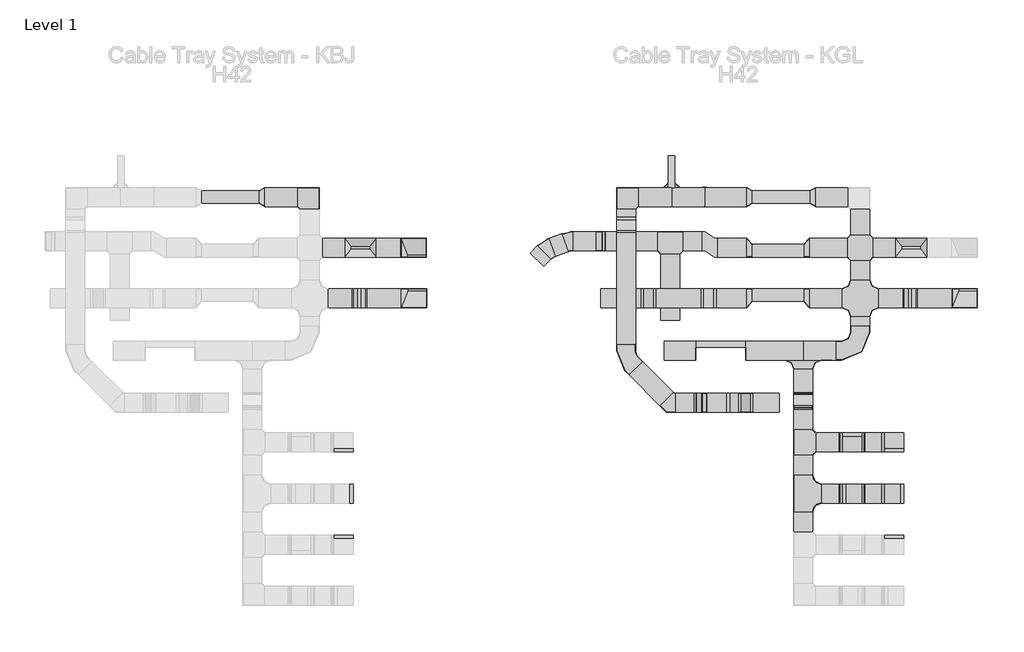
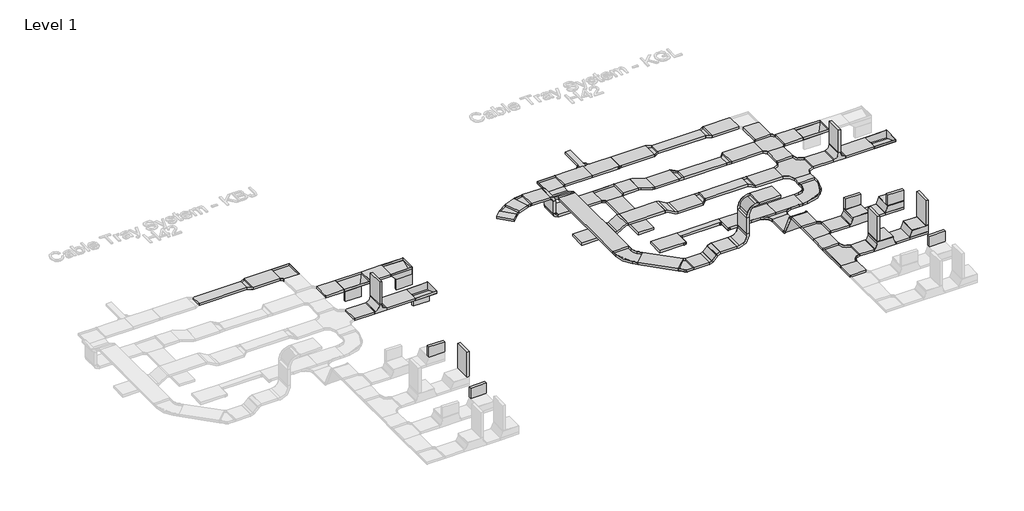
# One storey, part 7 of 32: 67 cable carrier segments, 48 cable carrier fittings.
"""IFC4 building model written with IfcOpenShell, lengths in millimetres."""

from ifc_helpers import new_model, si_unit, frame, origin, place, context, project, spatial, polyline, outline, extrude, transform, mapped, element, save
from components import cable_carrier_fitting_2f03b0e3, cable_carrier_fitting_e5c8e40d, cable_carrier_fitting_efa56db2, cable_carrier_fitting_2b67af39, cable_carrier_fitting_400b97e6, cable_carrier_fitting_736d034b, cable_carrier_fitting_94ef316f, cable_carrier_fitting_d4aa8912, cable_carrier_fitting_717dd42d, cable_carrier_fitting_b6ebce7b, cable_carrier_fitting_70c157f5, cable_carrier_fitting_f138ef00, cable_carrier_fitting_e93d4d17, cable_carrier_fitting_1724e2f5, cable_carrier_fitting_f62230c1, cable_carrier_fitting_ae8e9708, cable_carrier_fitting_2d1b2b1b, cable_carrier_fitting_6d558282, cable_carrier_fitting_b296faec, cable_carrier_fitting_47b1af77, cable_carrier_fitting_55953e98, cable_carrier_fitting_c1d9b0e5, cable_carrier_fitting_19ef2403, cable_carrier_fitting_0fee3a18, cable_carrier_fitting_93b13c26, cable_carrier_fitting_9011e538, cable_carrier_fitting_5d3ac796, cable_carrier_fitting_b8cc1d00, cable_carrier_fitting_0e05e12f, cable_carrier_fitting_3ff81d9b, cable_carrier_fitting_881c8fdb, cable_carrier_fitting_302010ec, rkj200_h42_828cf9d7, rkj200_h42_37d9c611

model = new_model("IFC4")

# Units and contexts
model_context = context("Model", 3, world=origin())
ifc_project = project(units=[si_unit("LENGTHUNIT", "METRE", prefix="MILLI")], contexts=[model_context])

# Site, building, storey
site = spatial("IfcSite", under=ifc_project)
building = spatial("IfcBuilding", under=site)
storey = spatial("IfcBuildingStorey", under=building, Name="Level 1", Elevation=0.0)

# Cable carrier fittings
placement = place(None, origin())
cable_carrier_fitting_shape = cable_carrier_fitting_2f03b0e3(model_context)
element("IfcCableCarrierFitting", 1, ObjectType="BAKS_Vertical tee symetrical : TRSNJ_H42", at=placement, inside=storey, context=model_context, shape_type="MappedRepresentation", body=[
    mapped(cable_carrier_fitting_shape, transform((-6858.1670538, 67780.8714214, 0.0), x_axis=(1.0, 0.0, 0.0), y_axis=(0.0, -1.0, 0.0), z_axis=(0.0, 0.0, -1.0))),
])
element("IfcCableCarrierFitting", 2, ObjectType="BAKS_Vertical tee symetrical : TRSNJ_H42", at=placement, inside=storey, context=model_context, shape_type="MappedRepresentation", body=[
    mapped(cable_carrier_fitting_shape, transform((-15558.1670538, 67780.8714214, 0.0), x_axis=(1.0, 0.0, 0.0), y_axis=(0.0, -1.0, 0.0), z_axis=(0.0, 0.0, -1.0))),
])
cable_carrier_fitting_2_shape = cable_carrier_fitting_e5c8e40d(model_context)
element("IfcCableCarrierFitting", 3, ObjectType="BAKS_SUB_Corner connector : LRJ_H42", at=placement, inside=storey, context=model_context, shape_type="MappedRepresentation", body=[
    mapped(cable_carrier_fitting_2_shape, transform((-10675.1670538, 69530.8714214, -21.0), x_axis=(-1.0, 0.0, 0.0), y_axis=(0.0, -1.0, 0.0), z_axis=(0.0, 0.0, 1.0))),
])
element("IfcCableCarrierFitting", 4, ObjectType="BAKS_SUB_Corner connector : LRJ_H42", at=placement, inside=storey, context=model_context, shape_type="MappedRepresentation", body=[
    mapped(cable_carrier_fitting_2_shape, transform((-10575.1670538, 69530.8714214, -21.0), x_axis=(0.0, 1.0, 0.0), y_axis=(-1.0, 0.0, 0.0), z_axis=(0.0, 0.0, 1.0))),
])
cable_carrier_fitting_3_shape = cable_carrier_fitting_efa56db2(model_context)
element("IfcCableCarrierFitting", 5, ObjectType="BAKS_Horizontal bypass : OPZNJ_H42", at=placement, inside=storey, context=model_context, shape_type="MappedRepresentation", body=[
    mapped(cable_carrier_fitting_3_shape, transform((-10022.1670538, 68580.8714214, 0.0), x_axis=(-1.0, 0.0, 0.0), y_axis=(0.0, 1.0, 0.0), z_axis=(0.0, 0.0, -1.0))),
])
cable_carrier_fitting_4_shape = cable_carrier_fitting_2b67af39(model_context)
element("IfcCableCarrierFitting", 6, ObjectType="BAKS_Vertical bypass : OPNNJ_H42", at=placement, inside=storey, context=model_context, shape_type="MappedRepresentation", body=[
    mapped(cable_carrier_fitting_4_shape, transform((-10986.6670538, 67780.8714214, 100.0), x_axis=(-1.0, 0.0, 0.0), y_axis=(0.0, -1.0, 0.0), z_axis=(0.0, 0.0, 1.0))),
])
cable_carrier_fitting_5_shape = cable_carrier_fitting_400b97e6(model_context)
element("IfcCableCarrierFitting", 7, ObjectType="BAKS_Vertical elbow left : KRLBJ_H42", at=placement, inside=storey, context=model_context, shape_type="MappedRepresentation", body=[
    mapped(cable_carrier_fitting_5_shape, transform((-14908.1670538, 68580.8714214, 0.0), x_axis=(1.0, 0.0, 0.0), y_axis=(0.0, 1.0, 0.0), z_axis=(0.0, 0.0, 1.0))),
])
cable_carrier_fitting_6_shape = cable_carrier_fitting_736d034b(model_context)
element("IfcCableCarrierFitting", 8, ObjectType="BAKS_Vertical tee lengthwise : TRBJ_H42", at=placement, inside=storey, context=model_context, shape_type="MappedRepresentation", body=[
    mapped(cable_carrier_fitting_6_shape, transform((-6838.1670538, 68580.8714214, 0.0), x_axis=(-1.0, 0.0, 0.0), y_axis=(0.0, -1.0, 0.0), z_axis=(0.0, 0.0, 1.0))),
])
element("IfcCableCarrierFitting", 9, ObjectType="BAKS_Vertical tee lengthwise : TRBJ_H42", at=placement, inside=storey, context=model_context, shape_type="MappedRepresentation", body=[
    mapped(cable_carrier_fitting_6_shape, transform((-15538.1670538, 68580.8714214, 0.0), x_axis=(-1.0, 0.0, 0.0), y_axis=(0.0, -1.0, 0.0), z_axis=(0.0, 0.0, 1.0))),
])
cable_carrier_fitting_7_shape = cable_carrier_fitting_94ef316f(model_context)
element("IfcCableCarrierFitting", 10, ObjectType="BAKS_Reducer : RK(S/L/P)L_H42", at=placement, inside=storey, context=model_context, shape_type="MappedRepresentation", body=[
    mapped(cable_carrier_fitting_7_shape, transform((-9443.1670538, 69380.8714214, 0.0), x_axis=(1.0, 0.0, 0.0), y_axis=(0.0, 1.0, 0.0), z_axis=(0.0, 0.0, 1.0))),
])
cable_carrier_fitting_8_shape = cable_carrier_fitting_d4aa8912(model_context)
element("IfcCableCarrierFitting", 11, ObjectType="BAKS_Reducer : RK(S/L/P)L_H42", at=placement, inside=storey, context=model_context, shape_type="MappedRepresentation", body=[
    mapped(cable_carrier_fitting_8_shape, transform((-8443.1670538, 69380.8714214, 0.0), x_axis=(1.0, 0.0, 0.0), y_axis=(0.0, 1.0, 0.0), z_axis=(0.0, 0.0, 1.0))),
])
element("IfcCableCarrierFitting", 12, ObjectType="BAKS_Reducer : RK(S/L/P)L_H42", at=placement, inside=storey, context=model_context, shape_type="MappedRepresentation", body=[
    mapped(cable_carrier_fitting_8_shape, transform((-17143.1670538, 69380.8714214, 0.0), x_axis=(1.0, 0.0, 0.0), y_axis=(0.0, 1.0, 0.0), z_axis=(0.0, 0.0, 1.0))),
])
cable_carrier_fitting_9_shape = cable_carrier_fitting_717dd42d(model_context)
element("IfcCableCarrierFitting", 13, ObjectType="BAKS_Horizontal bend : KKBL/KKMBL_H42", at=placement, inside=storey, context=model_context, shape_type="MappedRepresentation", body=[
    mapped(cable_carrier_fitting_9_shape, transform((-16343.1670538, 69380.8714214, 0.0), x_axis=(0.0, 1.0, 0.0), y_axis=(-1.0, 0.0, 0.0), z_axis=(0.0, 0.0, 1.0))),
])
element("IfcCableCarrierFitting", 14, ObjectType="BAKS_Horizontal bend : KKBL/KKMBL_H42", at=placement, inside=storey, context=model_context, shape_type="MappedRepresentation", body=[
    mapped(cable_carrier_fitting_9_shape, transform((-11343.1670538, 69380.8714214, 0.0), x_axis=(-1.0, 0.0, 0.0), y_axis=(0.0, -1.0, 0.0), z_axis=(0.0, 0.0, 1.0))),
])
cable_carrier_fitting_10_shape = cable_carrier_fitting_b6ebce7b(model_context)
element("IfcCableCarrierFitting", 15, ObjectType="BAKS_Horizontal tee : TKL_H42", at=placement, inside=storey, context=model_context, shape_type="MappedRepresentation", body=[
    mapped(cable_carrier_fitting_10_shape, transform((-10643.6670538, 68680.8714214, 0.0), x_axis=(1.0, 0.0, 0.0), y_axis=(0.0, 1.0, 0.0), z_axis=(0.0, 0.0, 1.0))),
])
element("IfcCableCarrierFitting", 16, ObjectType="BAKS_Horizontal tee : TKL_H42", at=placement, inside=storey, context=model_context, shape_type="MappedRepresentation", body=[
    mapped(cable_carrier_fitting_10_shape, transform((-8546.1670538, 65503.8631068, 432.5277378), x_axis=(0.0, 1.0, 0.0), y_axis=(-1.0, 0.0, 0.0), z_axis=(0.0, 0.0, 1.0))),
])
cable_carrier_fitting_11_shape = cable_carrier_fitting_70c157f5(model_context)
element("IfcCableCarrierFitting", 17, ObjectType="BAKS_Reducer : RK(S/L/P)L_H42", at=placement, inside=storey, context=model_context, shape_type="MappedRepresentation", body=[
    mapped(cable_carrier_fitting_11_shape, transform((-9443.1670538, 68580.8714214, 0.0), x_axis=(1.0, 0.0, 0.0), y_axis=(0.0, 1.0, 0.0), z_axis=(0.0, 0.0, 1.0))),
])
element("IfcCableCarrierFitting", 18, ObjectType="BAKS_Reducer : RK(S/L/P)L_H42", at=placement, inside=storey, context=model_context, shape_type="MappedRepresentation", body=[
    mapped(cable_carrier_fitting_11_shape, transform((-8443.1670538, 67780.8714214, 0.0), x_axis=(-1.0, 0.0, 0.0), y_axis=(0.0, -1.0, 0.0), z_axis=(0.0, 0.0, 1.0))),
])
cable_carrier_fitting_12_shape = cable_carrier_fitting_f138ef00(model_context)
element("IfcCableCarrierFitting", 19, ObjectType="BAKS_Reducer : RK(S/L/P)L_H42", at=placement, inside=storey, context=model_context, shape_type="MappedRepresentation", body=[
    mapped(cable_carrier_fitting_12_shape, transform((-8443.1670538, 68580.8714214, 0.0), x_axis=(-1.0, 0.0, 0.0), y_axis=(0.0, -1.0, 0.0), z_axis=(0.0, 0.0, 1.0))),
])
element("IfcCableCarrierFitting", 20, ObjectType="BAKS_Reducer : RK(S/L/P)L_H42", at=placement, inside=storey, context=model_context, shape_type="MappedRepresentation", body=[
    mapped(cable_carrier_fitting_12_shape, transform((-9443.1670538, 67780.8714214, 0.0), x_axis=(1.0, 0.0, 0.0), y_axis=(0.0, 1.0, 0.0), z_axis=(0.0, 0.0, 1.0))),
])
cable_carrier_fitting_13_shape = cable_carrier_fitting_e93d4d17(model_context)
element("IfcCableCarrierFitting", 21, ObjectType="BAKS_Plate connector : LPMU_H42", at=placement, inside=storey, context=model_context, shape_type="MappedRepresentation", body=[
    mapped(cable_carrier_fitting_13_shape, transform((-10103.1670538, 69380.8714214, 0.0), x_axis=(1.0, 0.0, 0.0), y_axis=(0.0, 1.0, 0.0), z_axis=(0.0, 0.0, 1.0))),
])
cable_carrier_fitting_14_shape = cable_carrier_fitting_1724e2f5(model_context)
element("IfcCableCarrierFitting", 22, ObjectType="BAKS_Vertical bypass : OPNNJ_H42", at=placement, inside=storey, context=model_context, shape_type="MappedRepresentation", body=[
    mapped(cable_carrier_fitting_14_shape, transform((-10043.6670538, 67780.8714214, 0.0), x_axis=(-1.0, 0.0, 0.0), y_axis=(0.0, -1.0, 0.0), z_axis=(0.0, 0.0, 1.0))),
])
element("IfcCableCarrierFitting", 23, ObjectType="BAKS_Vertical bypass : OPNNJ_H42", at=placement, inside=storey, context=model_context, shape_type="MappedRepresentation", body=[
    mapped(cable_carrier_fitting_14_shape, transform((-11343.1670538, 68939.3714214, 0.0), x_axis=(0.0, -1.0, 0.0), y_axis=(1.0, 0.0, 0.0), z_axis=(0.0, 0.0, 1.0))),
])
cable_carrier_fitting_15_shape = cable_carrier_fitting_f62230c1(model_context)
element("IfcCableCarrierFitting", 24, ObjectType="BAKS_Vertical bend LU : LUNJ/LUMNJ_H42", at=placement, inside=storey, context=model_context, shape_type="MappedRepresentation", body=[
    mapped(cable_carrier_fitting_15_shape, transform((-11743.6670538, 68680.8714214, 0.0), x_axis=(-1.0, 0.0, 0.0), y_axis=(0.0, 0.0, 1.0), z_axis=(0.0, 1.0, 0.0))),
])
element("IfcCableCarrierFitting", 25, ObjectType="BAKS_Vertical bend LU : LUNJ/LUMNJ_H42", at=placement, inside=storey, context=model_context, shape_type="MappedRepresentation", body=[
    mapped(cable_carrier_fitting_15_shape, transform((-11743.6670538, 68680.8714214, 400.0), x_axis=(0.0, 0.0, 1.0), y_axis=(-1.0, 0.0, 0.0), z_axis=(0.0, -1.0, 0.0))),
])
cable_carrier_fitting_16_shape = cable_carrier_fitting_ae8e9708(model_context)
element("IfcCableCarrierFitting", 26, ObjectType="BAKS_Horizontal bend : KKBL/KKMBL_H42", at=placement, inside=storey, context=model_context, shape_type="MappedRepresentation", body=[
    mapped(cable_carrier_fitting_16_shape, transform((-10643.6670538, 66131.3714214, 100.0), x_axis=(0.7071067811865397, -0.7071067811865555, 0.0), y_axis=(0.7071067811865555, 0.7071067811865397, 0.0), z_axis=(0.0, 0.0, 1.0))),
])
cable_carrier_fitting_17_shape = cable_carrier_fitting_2d1b2b1b(model_context)
element("IfcCableCarrierFitting", 27, ObjectType="BAKS_Vertical bend LU : LUNJ/LUMNJ_H42", at=placement, inside=storey, context=model_context, shape_type="MappedRepresentation", body=[
    mapped(cable_carrier_fitting_17_shape, transform((-10243.6670538, 66131.3714214, 100.0), x_axis=(1.0, 0.0, 0.0), y_axis=(0.0, 0.0, 1.0), z_axis=(0.0, -1.0, 0.0))),
])
element("IfcCableCarrierFitting", 28, ObjectType="BAKS_Vertical bend LU : LUNJ/LUMNJ_H42", at=placement, inside=storey, context=model_context, shape_type="MappedRepresentation", body=[
    mapped(cable_carrier_fitting_17_shape, transform((-10106.2659001, 66131.3714214, 237.4011537), x_axis=(0.7071067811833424, 0.0, 0.7071067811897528), y_axis=(0.7071067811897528, 0.0, -0.7071067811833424), z_axis=(0.0, 1.0, 0.0))),
])
cable_carrier_fitting_18_shape = cable_carrier_fitting_6d558282(model_context)
element("IfcCableCarrierFitting", 29, ObjectType="BAKS_Vertical bend adjustable : LLL/LLJ_H42", at=placement, inside=storey, context=model_context, shape_type="MappedRepresentation", body=[
    mapped(cable_carrier_fitting_18_shape, transform((-9546.2659001, 66131.3714214, 237.4011537), x_axis=(1.0, 0.0, 0.0), y_axis=(0.0, 0.0, 1.0), z_axis=(0.0, -1.0, 0.0))),
])
element("IfcCableCarrierFitting", 30, ObjectType="BAKS_Vertical bend adjustable : LLL/LLJ_H42", at=placement, inside=storey, context=model_context, shape_type="MappedRepresentation", body=[
    mapped(cable_carrier_fitting_18_shape, transform((-9546.2659001, 66131.3714214, 977.4011537), x_axis=(0.0, 0.0, 1.0), y_axis=(1.0, 0.0, 0.0), z_axis=(0.0, 1.0, 0.0))),
])
cable_carrier_fitting_19_shape = cable_carrier_fitting_b296faec(model_context)
element("IfcCableCarrierFitting", 31, ObjectType="BAKS_Horizontal addon tee : TKDJ_H42", at=placement, inside=storey, context=model_context, shape_type="MappedRepresentation", body=[
    mapped(cable_carrier_fitting_19_shape, transform((-8546.1670538, 66955.8714214, 0.0), x_axis=(1.0, 0.0, 0.0), y_axis=(0.0, 1.0, 0.0), z_axis=(0.0, 0.0, 1.0))),
])
cable_carrier_fitting_20_shape = cable_carrier_fitting_47b1af77(model_context)
element("IfcCableCarrierFitting", 32, ObjectType="BAKS_Articulated_connector : LGJ_H42", at=placement, inside=storey, context=model_context, shape_type="MappedRepresentation", body=[
    mapped(cable_carrier_fitting_20_shape, transform((-8546.1670538, 66258.7056523, 0.0), x_axis=(0.0, -1.0, 0.0), y_axis=(0.0, 0.0, 1.0), z_axis=(-1.0, 0.0, 0.0))),
])
element("IfcCableCarrierFitting", 33, ObjectType="BAKS_Articulated_connector : LGJ_H42", at=placement, inside=storey, context=model_context, shape_type="MappedRepresentation", body=[
    mapped(cable_carrier_fitting_20_shape, transform((-8546.1670538, 66057.0146558, 432.5277378), x_axis=(0.0, -0.42261826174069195, 0.9063077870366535), y_axis=(0.0, -0.9063077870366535, -0.42261826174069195), z_axis=(1.0, 0.0, 0.0))),
])
cable_carrier_fitting_21_shape = cable_carrier_fitting_55953e98(model_context)
element("IfcCableCarrierFitting", 34, ObjectType="BAKS_Horizontal bend radius : KKPJ/KKMPJ_H42", at=placement, inside=storey, context=model_context, shape_type="MappedRepresentation", body=[
    mapped(cable_carrier_fitting_21_shape, transform((-11343.1670538, 66830.8714214, 100.0), x_axis=(0.0, -1.0, 0.0), y_axis=(1.0, 0.0, 0.0), z_axis=(0.0, 0.0, 1.0))),
])
cable_carrier_fitting_22_shape = cable_carrier_fitting_c1d9b0e5(model_context)
element("IfcCableCarrierFitting", 35, ObjectType="BAKS_Horizontal bend radius : KKPJ/KKMPJ_H42", at=placement, inside=storey, context=model_context, shape_type="MappedRepresentation", body=[
    mapped(cable_carrier_fitting_22_shape, transform((-7643.1670538, 66955.8714214, 0.0), x_axis=(1.0, 0.0, 0.0), y_axis=(0.0, 1.0, 0.0), z_axis=(0.0, 0.0, 1.0))),
])
cable_carrier_fitting_23_shape = cable_carrier_fitting_19ef2403(model_context)
element("IfcCableCarrierFitting", 36, ObjectType="BAKS_Adjustable bend : KKRPJ_H42", at=placement, inside=storey, context=model_context, shape_type="MappedRepresentation", body=[
    mapped(cable_carrier_fitting_23_shape, transform((-12581.9563973, 68557.7441698, 400.0), x_axis=(-0.9396926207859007, -0.34202014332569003, 0.0), y_axis=(0.34202014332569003, -0.9396926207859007, 0.0), z_axis=(0.0, 0.0, 1.0))),
])
cable_carrier_fitting_24_shape = cable_carrier_fitting_0fee3a18(model_context)
element("IfcCableCarrierFitting", 37, ObjectType="BAKS_Adjustable bend : KKRPJ_H42", at=placement, inside=storey, context=model_context, shape_type="MappedRepresentation", body=[
    mapped(cable_carrier_fitting_24_shape, transform((-12243.6670538, 68680.8714214, 400.0), x_axis=(-1.0, 0.0, 0.0), y_axis=(0.0, -1.0, 0.0), z_axis=(0.0, 0.0, 1.0))),
])
cable_carrier_fitting_25_shape = cable_carrier_fitting_93b13c26(model_context)
element("IfcCableCarrierFitting", 38, ObjectType="BAKS_Horizontal tee radius : TKPJ_H42", at=placement, inside=storey, context=model_context, shape_type="MappedRepresentation", body=[
    mapped(cable_carrier_fitting_25_shape, transform((-8546.1670538, 64696.5802898, 432.5277378), x_axis=(0.0, 1.0, 0.0), y_axis=(-1.0, 0.0, 0.0), z_axis=(0.0, 0.0, 1.0))),
])
cable_carrier_fitting_26_shape = cable_carrier_fitting_9011e538(model_context)
element("IfcCableCarrierFitting", 39, ObjectType="BAKS_Horizontal cross over : CZKL_H42", at=placement, inside=storey, context=model_context, shape_type="MappedRepresentation", body=[
    mapped(cable_carrier_fitting_26_shape, transform((-7643.1670538, 68580.8714214, 0.0), x_axis=(0.0, -1.0, 0.0), y_axis=(1.0, 0.0, 0.0), z_axis=(0.0, 0.0, 1.0))),
])
cable_carrier_fitting_27_shape = cable_carrier_fitting_5d3ac796(model_context)
element("IfcCableCarrierFitting", 40, ObjectType="BAKS_Horizontal cross over radius : CZKPJ_H42", at=placement, inside=storey, context=model_context, shape_type="MappedRepresentation", body=[
    mapped(cable_carrier_fitting_27_shape, transform((-7643.1670538, 67780.8714214, 0.0), x_axis=(0.0, -1.0, 0.0), y_axis=(1.0, 0.0, 0.0), z_axis=(0.0, 0.0, 1.0))),
])
cable_carrier_fitting_28_shape = cable_carrier_fitting_b8cc1d00(model_context)
element("IfcCableCarrierFitting", 41, ObjectType="BAKS_Vertical elbow right : KRPJ_H42", at=placement, inside=storey, context=model_context, shape_type="MappedRepresentation", body=[
    mapped(cable_carrier_fitting_28_shape, transform((-6202.1670538, 67780.8714214, 0.0), x_axis=(1.0, 0.0, 0.0), y_axis=(0.0, 1.0, 0.0), z_axis=(0.0, 0.0, 1.0))),
])
element("IfcCableCarrierFitting", 42, ObjectType="BAKS_Vertical elbow right : KRPJ_H42", at=placement, inside=storey, context=model_context, shape_type="MappedRepresentation", body=[
    mapped(cable_carrier_fitting_28_shape, transform((-14902.1670538, 67780.8714214, 0.0), x_axis=(1.0, 0.0, 0.0), y_axis=(0.0, 1.0, 0.0), z_axis=(0.0, 0.0, 1.0))),
])
cable_carrier_fitting_29_shape = cable_carrier_fitting_0e05e12f(model_context)
element("IfcCableCarrierFitting", 43, ObjectType="BAKS_Universal elbow : KRUMJ_H42", at=placement, inside=storey, context=model_context, shape_type="MappedRepresentation", body=[
    mapped(cable_carrier_fitting_29_shape, transform((-7306.1670538, 65503.8631068, 432.5277378), x_axis=(1.0, 0.0, 0.0), y_axis=(0.0, 1.0, 0.0), z_axis=(0.0, 0.0, 1.0))),
])
cable_carrier_fitting_30_shape = cable_carrier_fitting_3ff81d9b(model_context)
element("IfcCableCarrierFitting", 44, ObjectType="BAKS_Universal tee : TRUNJ_H42", at=placement, inside=storey, context=model_context, shape_type="MappedRepresentation", body=[
    mapped(cable_carrier_fitting_30_shape, transform((-7773.5199976, 65503.8631068, 432.5277378), x_axis=(-1.0, 0.0, 0.0), y_axis=(0.0, -1.0, 0.0), z_axis=(0.0, 0.0, 1.0))),
])
cable_carrier_fitting_31_shape = cable_carrier_fitting_881c8fdb(model_context)
element("IfcCableCarrierFitting", 45, ObjectType="BAKS_Universal elbow : KRUMJ_H42", at=placement, inside=storey, context=model_context, shape_type="MappedRepresentation", body=[
    mapped(cable_carrier_fitting_31_shape, transform((-7306.1670538, 64696.5802898, 432.5277378), x_axis=(1.0, 0.0, 0.0), y_axis=(0.0, 1.0, 0.0), z_axis=(0.0, 0.0, 1.0))),
])
cable_carrier_fitting_32_shape = cable_carrier_fitting_302010ec(model_context)
element("IfcCableCarrierFitting", 46, ObjectType="BAKS_Universal tee : TRUNJ_H42", at=placement, inside=storey, context=model_context, shape_type="MappedRepresentation", body=[
    mapped(cable_carrier_fitting_32_shape, transform((-7773.5199976, 64696.5802898, 432.5277378), x_axis=(-1.0, 0.0, 0.0), y_axis=(0.0, -1.0, 0.0), z_axis=(0.0, 0.0, 1.0))),
])
rkj200_h42_shape = rkj200_h42_828cf9d7(model_context)
element("IfcCableCarrierFitting", 47, ObjectType="BAKS_Angle reducer : RKJ200_H42", at=placement, inside=storey, context=model_context, shape_type="MappedRepresentation", body=[
    mapped(rkj200_h42_shape, transform((-9453.1670538, 66955.8714214, 0.0), x_axis=(-1.0, 0.0, 0.0), y_axis=(0.0, -1.0, 0.0), z_axis=(0.0, 0.0, 1.0))),
])
rkj200_h42_2_shape = rkj200_h42_37d9c611(model_context)
element("IfcCableCarrierFitting", 48, ObjectType="BAKS_Angle reducer : RKJ200_H42", at=placement, inside=storey, context=model_context, shape_type="MappedRepresentation", body=[
    mapped(rkj200_h42_2_shape, transform((-10243.1670538, 66955.8714214, 0.0), x_axis=(1.0, 0.0, 0.0), y_axis=(0.0, 1.0, 0.0), z_axis=(0.0, 0.0, 1.0))),
])

# Cable carrier segments
element("IfcCableCarrierSegment", 49, ObjectType="BAKS - Cable tray H42 (KGL)", at=placement, inside=storey, context=model_context, shape_type="SweptSolid", body=[
    extrude(outline(polyline([(-10102.1670538, 69230.8714214), (-10102.1670538, 69530.8714214), (-9443.1670538, 69530.8714214), (-9443.1670538, 69230.8714214), (-10102.1670538, 69230.8714214)])), frame((0.0, 0.0, -21.0), z_axis=(0.0, 0.0, 1.0), x_axis=(1.0, 0.0, 0.0)), (0.0, 0.0, 1.0), 42.0),
])
element("IfcCableCarrierSegment", 50, ObjectType="BAKS - Cable tray H42 (KGL)", at=placement, inside=storey, context=model_context, shape_type="SweptSolid", body=[
    extrude(outline(polyline([(-9348.1670538, 69280.8714214), (-9348.1670538, 69480.8714214), (-8443.1670538, 69480.8714214), (-8443.1670538, 69280.8714214), (-9348.1670538, 69280.8714214)])), frame((0.0, 0.0, -21.0), z_axis=(0.0, 0.0, 1.0), x_axis=(1.0, 0.0, 0.0)), (0.0, 0.0, 1.0), 42.0),
])
element("IfcCableCarrierSegment", 51, ObjectType="BAKS - Cable tray H42 (KGL)", at=placement, inside=storey, context=model_context, shape_type="SweptSolid", body=[
    extrude(outline(polyline([(-8348.1670538, 69230.8714214), (-8348.1670538, 69530.8714214), (-7839.1670538, 69530.8714214), (-7839.1670538, 69230.8714214), (-8348.1670538, 69230.8714214)])), frame((0.0, 0.0, -21.0), z_axis=(0.0, 0.0, 1.0), x_axis=(1.0, 0.0, 0.0)), (0.0, 0.0, 1.0), 42.0),
])
element("IfcCableCarrierSegment", 52, ObjectType="BAKS - Cable tray H42 (KGL)", at=placement, inside=storey, context=model_context, shape_type="SweptSolid", body=[
    extrude(outline(polyline([(-7793.1670538, 69184.8714214), (-7493.1670538, 69184.8714214), (-7493.1670538, 68785.8714214), (-7793.1670538, 68785.8714214), (-7793.1670538, 69184.8714214)])), frame((0.0, 0.0, -21.0), z_axis=(0.0, 0.0, 1.0), x_axis=(1.0, 0.0, 0.0)), (0.0, 0.0, 1.0), 42.0),
])
element("IfcCableCarrierSegment", 53, ObjectType="BAKS - Cable tray H42 (KGL)", at=placement, inside=storey, context=model_context, shape_type="SweptSolid", body=[
    extrude(outline(polyline([(-7793.1670538, 68375.8714214), (-7493.1670538, 68375.8714214), (-7493.1670538, 68071.8714214), (-7793.1670538, 68071.8714214), (-7793.1670538, 68375.8714214)])), frame((0.0, 0.0, -21.0), z_axis=(0.0, 0.0, 1.0), x_axis=(1.0, 0.0, 0.0)), (0.0, 0.0, 1.0), 42.0),
])
element("IfcCableCarrierSegment", 54, ObjectType="BAKS - Cable tray H42 (KGL)", at=placement, inside=storey, context=model_context, shape_type="SweptSolid", body=[
    extrude(outline(polyline([(-8538.1670538, 68630.8714214), (-8538.1670538, 68430.8714214), (-9348.1670538, 68430.8714214), (-9348.1670538, 68630.8714214), (-8538.1670538, 68630.8714214)])), frame((0.0, 0.0, -21.0), z_axis=(0.0, 0.0, 1.0), x_axis=(1.0, 0.0, 0.0)), (0.0, 0.0, 1.0), 42.0),
])
element("IfcCableCarrierSegment", 55, ObjectType="BAKS - Cable tray H42 (KGL)", at=placement, inside=storey, context=model_context, shape_type="SweptSolid", body=[
    extrude(outline(polyline([(-9900.6670538, 68430.8714214), (-9900.6670538, 68730.8714214), (-9443.1670538, 68730.8714214), (-9443.1670538, 68430.8714214), (-9900.6670538, 68430.8714214)])), frame((0.0, 0.0, -21.0), z_axis=(0.0, 0.0, 1.0), x_axis=(1.0, 0.0, 0.0)), (0.0, 0.0, 1.0), 42.0),
])
element("IfcCableCarrierSegment", 56, ObjectType="BAKS - Cable tray H42 (KGL)", at=placement, inside=storey, context=model_context, shape_type="SweptSolid", body=[
    extrude(outline(polyline([(-7848.1670538, 68730.8714214), (-7848.1670538, 68430.8714214), (-8443.1670538, 68430.8714214), (-8443.1670538, 68730.8714214), (-7848.1670538, 68730.8714214)])), frame((0.0, 0.0, -21.0), z_axis=(0.0, 0.0, 1.0), x_axis=(1.0, 0.0, 0.0)), (0.0, 0.0, 1.0), 42.0),
])
element("IfcCableCarrierSegment", 57, ObjectType="BAKS - Cable tray H42 (KGL)", at=placement, inside=storey, context=model_context, shape_type="SweptSolid", body=[
    extrude(outline(polyline([(-8538.1670538, 67930.8714214), (-8538.1670538, 67730.8714214), (-9348.1670538, 67730.8714214), (-9348.1670538, 67930.8714214), (-8538.1670538, 67930.8714214)])), frame((0.0, 0.0, -21.0), z_axis=(0.0, 0.0, 1.0), x_axis=(1.0, 0.0, 0.0)), (0.0, 0.0, 1.0), 42.0),
])
element("IfcCableCarrierSegment", 58, ObjectType="BAKS - Cable tray H42 (KGL)", at=placement, inside=storey, context=model_context, shape_type="SweptSolid", body=[
    extrude(outline(polyline([(-9922.1670538, 67630.8714214), (-9922.1670538, 67930.8714214), (-9443.1670538, 67930.8714214), (-9443.1670538, 67630.8714214), (-9922.1670538, 67630.8714214)])), frame((0.0, 0.0, -21.0), z_axis=(0.0, 0.0, 1.0), x_axis=(1.0, 0.0, 0.0)), (0.0, 0.0, 1.0), 42.0),
])
element("IfcCableCarrierSegment", 59, ObjectType="BAKS - Cable tray H42 (KGL)", at=placement, inside=storey, context=model_context, shape_type="SweptSolid", body=[
    extrude(outline(polyline([(-7934.1670538, 67930.8714214), (-7934.1670538, 67630.8714214), (-8443.1670538, 67630.8714214), (-8443.1670538, 67930.8714214), (-7934.1670538, 67930.8714214)])), frame((0.0, 0.0, -21.0), z_axis=(0.0, 0.0, 1.0), x_axis=(1.0, 0.0, 0.0)), (0.0, 0.0, 1.0), 42.0),
])
element("IfcCableCarrierSegment", 60, ObjectType="BAKS - Cable tray H42 (KGL)", at=placement, inside=storey, context=model_context, shape_type="SweptSolid", body=[
    extrude(outline(polyline([(-10848.6670538, 68830.8714214), (-10848.6670538, 68530.8714214), (-11667.6670538, 68530.8714214), (-11667.6670538, 68830.8714214), (-10848.6670538, 68830.8714214)])), frame((0.0, 0.0, -21.0), z_axis=(0.0, 0.0, 1.0), x_axis=(1.0, 0.0, 0.0)), (0.0, 0.0, 1.0), 42.0),
])
element("IfcCableCarrierSegment", 61, ObjectType="BAKS - Cable tray H42 (KGL)", at=placement, inside=storey, context=model_context, shape_type="SweptSolid", body=[
    extrude(outline(polyline([(-10165.1670538, 67930.8714214), (-10165.1670538, 67630.8714214), (-10865.1670538, 67630.8714214), (-10865.1670538, 67930.8714214), (-10165.1670538, 67930.8714214)])), frame((0.0, 0.0, 79.0), z_axis=(0.0, 0.0, 1.0), x_axis=(1.0, 0.0, 0.0)), (0.0, 0.0, 1.0), 42.0),
])
element("IfcCableCarrierSegment", 62, ObjectType="BAKS - Cable tray H42 (KGL)", at=placement, inside=storey, context=model_context, shape_type="SweptSolid", body=[
    extrude(outline(polyline([(-11493.1670538, 69184.8714214), (-11193.1670538, 69184.8714214), (-11193.1670538, 69060.8714214), (-11493.1670538, 69060.8714214), (-11493.1670538, 69184.8714214)])), frame((0.0, 0.0, -21.0), z_axis=(0.0, 0.0, 1.0), x_axis=(1.0, 0.0, 0.0)), (0.0, 0.0, 1.0), 42.0),
])
element("IfcCableCarrierSegment", 63, ObjectType="BAKS - Cable tray H42 (KGL)", at=placement, inside=storey, context=model_context, shape_type="SweptSolid", body=[
    extrude(outline(polyline([(-10793.6670538, 68475.8714214), (-10493.6670538, 68475.8714214), (-10493.6670538, 67430.8714214), (-10793.6670538, 67430.8714214), (-10793.6670538, 68475.8714214)])), frame((0.0, 0.0, -21.0), z_axis=(0.0, 0.0, 1.0), x_axis=(1.0, 0.0, 0.0)), (0.0, 0.0, 1.0), 42.0),
])
element("IfcCableCarrierSegment", 64, ObjectType="BAKS - Cable tray H42 (KGL)", at=placement, inside=storey, context=model_context, shape_type="SweptSolid", body=[
    extrude(outline(polyline([(-10143.6670538, 68830.8714214), (-10143.6670538, 68530.8714214), (-10438.6670538, 68530.8714214), (-10438.6670538, 68830.8714214), (-10143.6670538, 68830.8714214)])), frame((0.0, 0.0, -21.0), z_axis=(0.0, 0.0, 1.0), x_axis=(1.0, 0.0, 0.0)), (0.0, 0.0, 1.0), 42.0),
])
element("IfcCableCarrierSegment", 65, ObjectType="BAKS - Cable tray H42 (KGL)", at=placement, inside=storey, context=model_context, shape_type="SweptSolid", body=[
    extrude(outline(polyline([(-11108.1670538, 67930.8714214), (-11108.1670538, 67630.8714214), (-11743.6670538, 67630.8714214), (-11743.6670538, 67930.8714214), (-11108.1670538, 67930.8714214)])), frame((0.0, 0.0, -21.0), z_axis=(0.0, 0.0, 1.0), x_axis=(1.0, 0.0, 0.0)), (0.0, 0.0, 1.0), 42.0),
])
element("IfcCableCarrierSegment", 66, ObjectType="BAKS - Cable tray H42 (KGL)", at=placement, inside=storey, context=model_context, shape_type="SweptSolid", body=[
    extrude(outline(polyline([(-12177.5322294, 68530.8714214), (-12177.5322294, 68830.8714214), (-11819.6670538, 68830.8714214), (-11819.6670538, 68530.8714214), (-12177.5322294, 68530.8714214)])), frame((0.0, 0.0, 379.0), z_axis=(0.0, 0.0, 1.0), x_axis=(1.0, 0.0, 0.0)), (0.0, 0.0, 1.0), 42.0),
])
element("IfcCableCarrierSegment", 67, ObjectType="BAKS - Cable tray H42 (KGL)", at=placement, inside=storey, context=model_context, shape_type="SweptSolid", body=[
    extrude(outline(polyline([(-11764.6670538, 68830.8714214), (-11722.6670538, 68830.8714214), (-11722.6670538, 68530.8714214), (-11764.6670538, 68530.8714214), (-11764.6670538, 68830.8714214)])), frame((0.0, 0.0, 76.0), z_axis=(0.0, 0.0, 1.0), x_axis=(1.0, 0.0, 0.0)), (0.0, 0.0, 1.0), 248.0),
])
element("IfcCableCarrierSegment", 68, ObjectType="BAKS - Cable tray H42 (KGL)", at=placement, inside=storey, context=model_context, shape_type="SweptSolid", body=[
    extrude(outline(polyline([(-11193.1670538, 67050.9933545), (-11493.1670538, 67050.9933545), (-11493.1670538, 68817.8714214), (-11193.1670538, 68817.8714214), (-11193.1670538, 67050.9933545)])), frame((0.0, 0.0, 79.0), z_axis=(0.0, 0.0, 1.0), x_axis=(1.0, 0.0, 0.0)), (0.0, 0.0, 1.0), 42.0),
])
element("IfcCableCarrierSegment", 69, ObjectType="BAKS - Cable tray H42 (KGL)", at=placement, inside=storey, context=model_context, shape_type="SweptSolid", body=[
    extrude(outline(polyline([(-11293.5833594, 66569.1556926), (-11081.451325, 66781.287727), (-10595.422321, 66295.258723), (-10807.5543554, 66083.1266887), (-11293.5833594, 66569.1556926)])), frame((0.0, 0.0, 79.0), z_axis=(0.0, 0.0, 1.0), x_axis=(1.0, 0.0, 0.0)), (0.0, 0.0, 1.0), 42.0),
])
element("IfcCableCarrierSegment", 70, ObjectType="BAKS - Cable tray H42 (KGL)", at=placement, inside=storey, context=model_context, shape_type="SweptSolid", body=[
    extrude(outline(polyline([(-10561.8954091, 65981.3714214), (-10561.8954091, 66281.3714214), (-10278.0762167, 66281.3714214), (-10278.0762167, 65981.3714214), (-10561.8954091, 65981.3714214)])), frame((0.0, 0.0, 79.0), z_axis=(0.0, 0.0, 1.0), x_axis=(1.0, 0.0, 0.0)), (0.0, 0.0, 1.0), 42.0),
])
element("IfcCableCarrierSegment", 71, ObjectType="BAKS - Cable tray H42 (KGL)", at=placement, inside=storey, context=model_context, shape_type="SweptSolid", body=[
    extrude(outline(polyline([(21.0, 1.4628667), (-21.0, 1.4628667), (-21.0, 301.4628667), (21.0, 301.4628667), (21.0, 1.4628667)])), frame((-10219.3361013, 65979.9085547, 124.3309524), z_axis=(0.7071067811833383, 0.0, 0.7071067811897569), x_axis=(0.7071067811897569, 0.0, -0.7071067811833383)), (0.0, 0.0, 1.0), 125.4962492),
])
element("IfcCableCarrierSegment", 72, ObjectType="BAKS - Cable tray H42 (KGL)", at=placement, inside=storey, context=model_context, shape_type="SweptSolid", body=[
    extrude(outline(polyline([(-10071.8567371, 65981.3714214), (-10071.8567371, 66281.3714214), (-9757.2659001, 66281.3714214), (-9757.2659001, 65981.3714214), (-10071.8567371, 65981.3714214)])), frame((0.0, 0.0, 216.4011537), z_axis=(0.0, 0.0, 1.0), x_axis=(1.0, 0.0, 0.0)), (0.0, 0.0, 1.0), 42.0),
])
element("IfcCableCarrierSegment", 73, ObjectType="BAKS - Cable tray H42 (KGL)", at=placement, inside=storey, context=model_context, shape_type="SweptSolid", body=[
    extrude(outline(polyline([(-9525.2659001, 65981.3714214), (-9567.2659001, 65981.3714214), (-9567.2659001, 66281.3714214), (-9525.2659001, 66281.3714214), (-9525.2659001, 65981.3714214)])), frame((0.0, 0.0, 448.4011537), z_axis=(0.0, 0.0, 1.0), x_axis=(1.0, 0.0, 0.0)), (0.0, 0.0, 1.0), 318.0),
])
element("IfcCableCarrierSegment", 74, ObjectType="BAKS - Cable tray H42 (KGL)", at=placement, inside=storey, context=model_context, shape_type="SweptSolid", body=[
    extrude(outline(polyline([(-9335.2659001, 65981.3714214), (-9335.2659001, 66281.3714214), (-8926.2659001, 66281.3714214), (-8926.2659001, 65981.3714214), (-9335.2659001, 65981.3714214)])), frame((0.0, 0.0, 956.4011537), z_axis=(0.0, 0.0, 1.0), x_axis=(1.0, 0.0, 0.0)), (0.0, 0.0, 1.0), 42.0),
])
element("IfcCableCarrierSegment", 75, ObjectType="BAKS - Cable tray H42 (KGL)", at=placement, inside=storey, context=model_context, shape_type="SweptSolid", body=[
    extrude(outline(polyline([(-8546.7091451, 67105.8714214), (-8546.7091451, 66805.8714214), (-9453.1670538, 66805.8714214), (-9453.1670538, 67105.8714214), (-8546.7091451, 67105.8714214)])), frame((0.0, 0.0, -21.0), z_axis=(0.0, 0.0, 1.0), x_axis=(1.0, 0.0, 0.0)), (0.0, 0.0, 1.0), 42.0),
])
element("IfcCableCarrierSegment", 76, ObjectType="BAKS - Cable tray H42 (KGL)", at=placement, inside=storey, context=model_context, shape_type="SweptSolid", body=[
    extrude(outline(polyline([(-10238.1670538, 67005.8714214), (-10238.1670538, 67105.8714214), (-9458.1670538, 67105.8714214), (-9458.1670538, 67005.8714214), (-10238.1670538, 67005.8714214)])), frame((0.0, 0.0, -21.0), z_axis=(0.0, 0.0, 1.0), x_axis=(1.0, 0.0, 0.0)), (0.0, 0.0, 1.0), 42.0),
])
element("IfcCableCarrierSegment", 77, ObjectType="BAKS - Cable tray H42 (KGL)", at=placement, inside=storey, context=model_context, shape_type="SweptSolid", body=[
    extrude(outline(polyline([(-7493.1670538, 67345.8714214), (-7793.1670538, 67345.8714214), (-7793.1670538, 67489.8714214), (-7493.1670538, 67489.8714214), (-7493.1670538, 67345.8714214)])), frame((0.0, 0.0, -21.0), z_axis=(0.0, 0.0, 1.0), x_axis=(1.0, 0.0, 0.0)), (0.0, 0.0, 1.0), 42.0),
])
element("IfcCableCarrierSegment", 78, ObjectType="BAKS - Cable tray H42 (KGL)", at=placement, inside=storey, context=model_context, shape_type="SweptSolid", body=[
    extrude(outline(polyline([(-10743.1670538, 66805.8714214), (-10743.1670538, 67105.8714214), (-10243.1670538, 67105.8714214), (-10243.1670538, 66805.8714214), (-10743.1670538, 66805.8714214)])), frame((0.0, 0.0, -21.0), z_axis=(0.0, 0.0, 1.0), x_axis=(1.0, 0.0, 0.0)), (0.0, 0.0, 1.0), 42.0),
])
element("IfcCableCarrierSegment", 79, ObjectType="BAKS - Cable tray H42 (KGL)", at=placement, inside=storey, context=model_context, shape_type="SweptSolid", body=[
    extrude(outline(polyline([(-8033.1670538, 67105.8714214), (-8033.1670538, 66805.8714214), (-8545.6249624, 66805.8714214), (-8545.6249624, 67105.8714214), (-8033.1670538, 67105.8714214)])), frame((0.0, 0.0, -21.0), z_axis=(0.0, 0.0, 1.0), x_axis=(1.0, 0.0, 0.0)), (0.0, 0.0, 1.0), 42.0),
])
element("IfcCableCarrierSegment", 80, ObjectType="BAKS - Cable tray H42 (KGL)", at=placement, inside=storey, context=model_context, shape_type="SweptSolid", body=[
    extrude(outline(polyline([(-8696.1670538, 66659.8714214), (-8396.1670538, 66659.8714214), (-8396.1670538, 66294.8255329), (-8696.1670538, 66294.8255329), (-8696.1670538, 66659.8714214)])), frame((0.0, 0.0, -21.0), z_axis=(0.0, 0.0, 1.0), x_axis=(1.0, 0.0, 0.0)), (0.0, 0.0, 1.0), 42.0),
])
element("IfcCableCarrierSegment", 81, ObjectType="BAKS - Cable tray H42 (KGL)", at=placement, inside=storey, context=model_context, shape_type="SweptSolid", body=[
    extrude(outline(polyline([(-150.0, 130.4628667), (-150.0, 172.4628667), (150.0, 172.4628667), (150.0, 130.4628667), (-150.0, 130.4628667)])), frame((-8546.1670538, 66106.1687555, -31.2752443), z_axis=(0.0, -0.42261826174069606, 0.9063077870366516), x_axis=(1.0, 0.0, 0.0)), (0.0, 0.0, 1.0), 405.0017938),
])
element("IfcCableCarrierSegment", 82, ObjectType="BAKS - Cable tray H42 (KGL)", at=placement, inside=storey, context=model_context, shape_type="SweptSolid", body=[
    extrude(outline(polyline([(-12357.1164817, 68799.2058724), (-12254.5104387, 68517.2980862), (-12456.1437833, 68443.9095505), (-12558.7498263, 68725.8173368), (-12357.1164817, 68799.2058724)])), frame((0.0, 0.0, 379.0), z_axis=(0.0, 0.0, 1.0), x_axis=(1.0, 0.0, 0.0)), (0.0, 0.0, 1.0), 42.0),
])
element("IfcCableCarrierSegment", 83, ObjectType="BAKS - Cable tray H42 (KGL)", at=placement, inside=storey, context=model_context, shape_type="SweptSolid", body=[
    extrude(outline(polyline([(-12744.0899379, 68607.7426635), (-12531.9579036, 68395.6106291), (-12644.3432656, 68283.2252671), (-12856.4753, 68495.3573015), (-12744.0899379, 68607.7426635)])), frame((0.0, 0.0, 379.0), z_axis=(0.0, 0.0, 1.0), x_axis=(1.0, 0.0, 0.0)), (0.0, 0.0, 1.0), 42.0),
])
element("IfcCableCarrierSegment", 84, ObjectType="BAKS - Cable tray H42 (KGL)", at=placement, inside=storey, context=model_context, shape_type="SweptSolid", body=[
    extrude(outline(polyline([(-7438.1670538, 68430.8714214), (-7438.1670538, 68730.8714214), (-7088.1670538, 68730.8714214), (-7088.1670538, 68430.8714214), (-7438.1670538, 68430.8714214)])), frame((0.0, 0.0, -21.0), z_axis=(0.0, 0.0, 1.0), x_axis=(1.0, 0.0, 0.0)), (0.0, 0.0, 1.0), 42.0),
])
element("IfcCableCarrierSegment", 85, ObjectType="BAKS - Cable tray H42 (KGL)", at=placement, inside=storey, context=model_context, shape_type="SweptSolid", body=[
    extrude(outline(polyline([(-7352.1670538, 67630.8714214), (-7352.1670538, 67930.8714214), (-6974.1670538, 67930.8714214), (-6974.1670538, 67630.8714214), (-7352.1670538, 67630.8714214)])), frame((0.0, 0.0, -21.0), z_axis=(0.0, 0.0, 1.0), x_axis=(1.0, 0.0, 0.0)), (0.0, 0.0, 1.0), 42.0),
])
element("IfcCableCarrierSegment", 86, ObjectType="BAKS - Cable tray H42 (KGL)", at=placement, inside=storey, context=model_context, shape_type="SweptSolid", body=[
    extrude(outline(polyline([(-6742.1670538, 67630.8714214), (-6742.1670538, 67930.8714214), (-6202.1670538, 67930.8714214), (-6202.1670538, 67630.8714214), (-6742.1670538, 67630.8714214)])), frame((0.0, 0.0, -21.0), z_axis=(0.0, 0.0, 1.0), x_axis=(1.0, 0.0, 0.0)), (0.0, 0.0, 1.0), 42.0),
])
element("IfcCableCarrierSegment", 87, ObjectType="BAKS - Cable tray H42 (KGL)", at=placement, inside=storey, context=model_context, shape_type="SweptSolid", body=[
    extrude(outline(polyline([(-6837.1670538, 67630.8714214), (-6879.1670538, 67630.8714214), (-6879.1670538, 67930.8714214), (-6837.1670538, 67930.8714214), (-6837.1670538, 67630.8714214)])), frame((0.0, 0.0, 136.0), z_axis=(0.0, 0.0, 1.0), x_axis=(1.0, 0.0, 0.0)), (0.0, 0.0, 1.0), 449.0),
])
element("IfcCableCarrierSegment", 88, ObjectType="BAKS - Cable tray H42 (KBJ)", at=placement, inside=storey, context=model_context, shape_type="SweptSolid", body=[
    extrude(outline(polyline([(-18048.1670538, 69280.8714214), (-18048.1670538, 69480.8714214), (-17143.1670538, 69480.8714214), (-17143.1670538, 69280.8714214), (-18048.1670538, 69280.8714214)])), frame((0.0, 0.0, -21.0), z_axis=(0.0, 0.0, 1.0), x_axis=(1.0, 0.0, 0.0)), (0.0, 0.0, 1.0), 42.0),
])
element("IfcCableCarrierSegment", 89, ObjectType="BAKS - Cable tray H42 (KBJ)", at=placement, inside=storey, context=model_context, shape_type="SweptSolid", body=[
    extrude(outline(polyline([(-17048.1670538, 69230.8714214), (-17048.1670538, 69530.8714214), (-16539.1670538, 69530.8714214), (-16539.1670538, 69230.8714214), (-17048.1670538, 69230.8714214)])), frame((0.0, 0.0, -21.0), z_axis=(0.0, 0.0, 1.0), x_axis=(1.0, 0.0, 0.0)), (0.0, 0.0, 1.0), 42.0),
])
element("IfcCableCarrierSegment", 90, ObjectType="BAKS - Cable tray H42 (KBJ)", at=placement, inside=storey, context=model_context, shape_type="SweptSolid", body=[
    extrude(outline(polyline([(-16138.1670538, 68430.8714214), (-16138.1670538, 68730.8714214), (-15788.1670538, 68730.8714214), (-15788.1670538, 68430.8714214), (-16138.1670538, 68430.8714214)])), frame((0.0, 0.0, -21.0), z_axis=(0.0, 0.0, 1.0), x_axis=(1.0, 0.0, 0.0)), (0.0, 0.0, 1.0), 42.0),
])
element("IfcCableCarrierSegment", 91, ObjectType="BAKS - Cable tray H42 (KBJ)", at=placement, inside=storey, context=model_context, shape_type="SweptSolid", body=[
    extrude(outline(polyline([(-16052.1670538, 67630.8714214), (-16052.1670538, 67930.8714214), (-15674.1670538, 67930.8714214), (-15674.1670538, 67630.8714214), (-16052.1670538, 67630.8714214)])), frame((0.0, 0.0, -21.0), z_axis=(0.0, 0.0, 1.0), x_axis=(1.0, 0.0, 0.0)), (0.0, 0.0, 1.0), 42.0),
])
element("IfcCableCarrierSegment", 92, ObjectType="BAKS - Cable tray H42 (KBJ)", at=placement, inside=storey, context=model_context, shape_type="SweptSolid", body=[
    extrude(outline(polyline([(-15442.1670538, 67630.8714214), (-15442.1670538, 67930.8714214), (-14902.1670538, 67930.8714214), (-14902.1670538, 67630.8714214), (-15442.1670538, 67630.8714214)])), frame((0.0, 0.0, -21.0), z_axis=(0.0, 0.0, 1.0), x_axis=(1.0, 0.0, 0.0)), (0.0, 0.0, 1.0), 42.0),
])
element("IfcCableCarrierSegment", 93, ObjectType="BAKS - Cable tray H42 (KBJ)", at=placement, inside=storey, context=model_context, shape_type="SweptSolid", body=[
    extrude(outline(polyline([(-15537.1670538, 67630.8714214), (-15579.1670538, 67630.8714214), (-15579.1670538, 67930.8714214), (-15537.1670538, 67930.8714214), (-15537.1670538, 67630.8714214)])), frame((0.0, 0.0, 136.0), z_axis=(0.0, 0.0, 1.0), x_axis=(1.0, 0.0, 0.0)), (0.0, 0.0, 1.0), 449.0),
])
element("IfcCableCarrierSegment", 94, ObjectType="BAKS - Cable tray H42 (KBJ)", at=placement, inside=storey, context=model_context, shape_type="SweptSolid", body=[
    extrude(outline(polyline([(-15288.1670538, 68430.8714214), (-15288.1670538, 68730.8714214), (-14908.1670538, 68730.8714214), (-14908.1670538, 68430.8714214), (-15288.1670538, 68430.8714214)])), frame((0.0, 0.0, -21.0), z_axis=(0.0, 0.0, 1.0), x_axis=(1.0, 0.0, 0.0)), (0.0, 0.0, 1.0), 42.0),
])
element("IfcCableCarrierSegment", 95, ObjectType="BAKS - Cable tray H42 (KGL)", at=placement, inside=storey, context=model_context, shape_type="SweptSolid", body=[
    extrude(outline(polyline([(-10625.6670538, 69530.8714214), (-10625.6670538, 69230.8714214), (-11147.1670538, 69230.8714214), (-11147.1670538, 69530.8714214), (-10625.6670538, 69530.8714214)])), frame((0.0, 0.0, -21.0), z_axis=(0.0, 0.0, 1.0), x_axis=(1.0, 0.0, 0.0)), (0.0, 0.0, 1.0), 42.0),
])
element("IfcCableCarrierSegment", 96, ObjectType="BAKS - Cable tray H42 (KGL)", at=placement, inside=storey, context=model_context, shape_type="SweptSolid", body=[
    extrude(outline(polyline([(-10575.1670538, 69530.8714214), (-10675.1670538, 69530.8714214), (-10675.1670538, 70030.8714214), (-10575.1670538, 70030.8714214), (-10575.1670538, 69530.8714214)])), frame((0.0, 0.0, -21.0), z_axis=(0.0, 0.0, 1.0), x_axis=(1.0, 0.0, 0.0)), (0.0, 0.0, 1.0), 42.0),
])
element("IfcCableCarrierSegment", 97, ObjectType="BAKS - Cable tray H42 (KGL)", at=placement, inside=storey, context=model_context, shape_type="SweptSolid", body=[
    extrude(outline(polyline([(-10103.1670538, 69530.8714214), (-10103.1670538, 69230.8714214), (-10624.6670538, 69230.8714214), (-10624.6670538, 69530.8714214), (-10103.1670538, 69530.8714214)])), frame((0.0, 0.0, -21.0), z_axis=(0.0, 0.0, 1.0), x_axis=(1.0, 0.0, 0.0)), (0.0, 0.0, 1.0), 42.0),
])
element("IfcCableCarrierSegment", 98, ObjectType="BAKS - Cable tray H42 (KBJ)", at=placement, inside=storey, context=model_context, shape_type="SweptSolid", body=[
    extrude(outline(polyline([(-15956.1670538, 65353.8631068), (-15956.1670538, 65403.8631068), (-15656.1670538, 65403.8631068), (-15656.1670538, 65353.8631068), (-15956.1670538, 65353.8631068)])), frame((0.0, 0.0, 586.5277378), z_axis=(0.0, 0.0, 1.0), x_axis=(1.0, 0.0, 0.0)), (0.0, 0.0, 1.0), 209.7997464),
])
element("IfcCableCarrierSegment", 99, ObjectType="BAKS - Cable tray H42 (KBJ)", at=placement, inside=storey, context=model_context, shape_type="SweptSolid", body=[
    extrude(outline(polyline([(-15706.1670538, 64846.5802898), (-15656.1670538, 64846.5802898), (-15656.1670538, 64546.5802898), (-15706.1670538, 64546.5802898), (-15706.1670538, 64846.5802898)])), frame((0.0, 0.0, 586.5277378), z_axis=(0.0, 0.0, 1.0), x_axis=(1.0, 0.0, 0.0)), (0.0, 0.0, 1.0), 500.0),
])
element("IfcCableCarrierSegment", 100, ObjectType="BAKS - Cable tray H42 (KBJ)", at=placement, inside=storey, context=model_context, shape_type="SweptSolid", body=[
    extrude(outline(polyline([(-15956.1670538, 63989.2974728), (-15956.1670538, 64039.2974728), (-15656.1670538, 64039.2974728), (-15656.1670538, 63989.2974728), (-15956.1670538, 63989.2974728)])), frame((0.0, 0.0, 586.5277378), z_axis=(0.0, 0.0, 1.0), x_axis=(1.0, 0.0, 0.0)), (0.0, 0.0, 1.0), 209.7997464),
])
element("IfcCableCarrierSegment", 101, ObjectType="BAKS - Cable tray H42 (KGL)", at=placement, inside=storey, context=model_context, shape_type="SweptSolid", body=[
    extrude(outline(polyline([(-8696.1670538, 64401.5802898), (-8396.1670538, 64401.5802898), (-8396.1670538, 64094.2974728), (-8696.1670538, 64094.2974728), (-8696.1670538, 64401.5802898)])), frame((0.0, 0.0, 411.5277378), z_axis=(0.0, 0.0, 1.0), x_axis=(1.0, 0.0, 0.0)), (0.0, 0.0, 1.0), 42.0),
])
element("IfcCableCarrierSegment", 102, ObjectType="BAKS - Cable tray H42 (KGL)", at=placement, inside=storey, context=model_context, shape_type="SweptSolid", body=[
    extrude(outline(polyline([(-7563.5199976, 64546.5802898), (-7563.5199976, 64846.5802898), (-7306.1670538, 64846.5802898), (-7306.1670538, 64546.5802898), (-7563.5199976, 64546.5802898)])), frame((0.0, 0.0, 411.5277378), z_axis=(0.0, 0.0, 1.0), x_axis=(1.0, 0.0, 0.0)), (0.0, 0.0, 1.0), 42.0),
])
element("IfcCableCarrierSegment", 103, ObjectType="BAKS - Cable tray H42 (KGL)", at=placement, inside=storey, context=model_context, shape_type="SweptSolid", body=[
    extrude(outline(polyline([(-8696.1670538, 65298.8631068), (-8396.1670538, 65298.8631068), (-8396.1670538, 64991.5802898), (-8696.1670538, 64991.5802898), (-8696.1670538, 65298.8631068)])), frame((0.0, 0.0, 411.5277378), z_axis=(0.0, 0.0, 1.0), x_axis=(1.0, 0.0, 0.0)), (0.0, 0.0, 1.0), 42.0),
])
element("IfcCableCarrierSegment", 104, ObjectType="BAKS - Cable tray H42 (KGL)", at=placement, inside=storey, context=model_context, shape_type="SweptSolid", body=[
    extrude(outline(polyline([(-7563.5199976, 65353.8631068), (-7563.5199976, 65653.8631068), (-7306.1670538, 65653.8631068), (-7306.1670538, 65353.8631068), (-7563.5199976, 65353.8631068)])), frame((0.0, 0.0, 411.5277378), z_axis=(0.0, 0.0, 1.0), x_axis=(1.0, 0.0, 0.0)), (0.0, 0.0, 1.0), 42.0),
])
element("IfcCableCarrierSegment", 105, ObjectType="BAKS - Cable tray H42 (KGL)", at=placement, inside=storey, context=model_context, shape_type="SweptSolid", body=[
    extrude(outline(polyline([(-8396.1670538, 65708.8631068), (-8696.1670538, 65708.8631068), (-8696.1670538, 66020.8947751), (-8396.1670538, 66020.8947751), (-8396.1670538, 65708.8631068)])), frame((0.0, 0.0, 411.5277378), z_axis=(0.0, 0.0, 1.0), x_axis=(1.0, 0.0, 0.0)), (0.0, 0.0, 1.0), 42.0),
])
element("IfcCableCarrierSegment", 106, ObjectType="BAKS - Cable tray H42 (KGL)", at=placement, inside=storey, context=model_context, shape_type="SweptSolid", body=[
    extrude(outline(polyline([(-8341.1670538, 65353.8631068), (-8341.1670538, 65653.8631068), (-7983.5199976, 65653.8631068), (-7983.5199976, 65353.8631068), (-8341.1670538, 65353.8631068)])), frame((0.0, 0.0, 411.5277378), z_axis=(0.0, 0.0, 1.0), x_axis=(1.0, 0.0, 0.0)), (0.0, 0.0, 1.0), 42.0),
])
element("IfcCableCarrierSegment", 107, ObjectType="BAKS - Cable tray H42 (KGL)", at=placement, inside=storey, context=model_context, shape_type="SweptSolid", body=[
    extrude(outline(polyline([(-8251.1670538, 64546.5802898), (-8251.1670538, 64846.5802898), (-7983.5199976, 64846.5802898), (-7983.5199976, 64546.5802898), (-8251.1670538, 64546.5802898)])), frame((0.0, 0.0, 411.5277378), z_axis=(0.0, 0.0, 1.0), x_axis=(1.0, 0.0, 0.0)), (0.0, 0.0, 1.0), 42.0),
])
element("IfcCableCarrierSegment", 108, ObjectType="BAKS - Cable tray H42 (KGL)", at=placement, inside=storey, context=model_context, shape_type="SweptSolid", body=[
    extrude(outline(polyline([(-7256.1670538, 65353.8631068), (-7256.1670538, 65403.8631068), (-6956.1670538, 65403.8631068), (-6956.1670538, 65353.8631068), (-7256.1670538, 65353.8631068)])), frame((0.0, 0.0, 586.5277378), z_axis=(0.0, 0.0, 1.0), x_axis=(1.0, 0.0, 0.0)), (0.0, 0.0, 1.0), 209.7997464),
])
element("IfcCableCarrierSegment", 109, ObjectType="BAKS - Cable tray H42 (KGL)", at=placement, inside=storey, context=model_context, shape_type="SweptSolid", body=[
    extrude(outline(polyline([(-7623.5199976, 65653.8631068), (-7623.5199976, 65603.8631068), (-7923.5199976, 65603.8631068), (-7923.5199976, 65653.8631068), (-7623.5199976, 65653.8631068)])), frame((0.0, 0.0, 586.5277378), z_axis=(0.0, 0.0, 1.0), x_axis=(1.0, 0.0, 0.0)), (0.0, 0.0, 1.0), 209.7997464),
])
element("IfcCableCarrierSegment", 110, ObjectType="BAKS - Cable tray H42 (KGL)", at=placement, inside=storey, context=model_context, shape_type="SweptSolid", body=[
    extrude(outline(polyline([(-7006.1670538, 64846.5802898), (-6956.1670538, 64846.5802898), (-6956.1670538, 64546.5802898), (-7006.1670538, 64546.5802898), (-7006.1670538, 64846.5802898)])), frame((0.0, 0.0, 586.5277378), z_axis=(0.0, 0.0, 1.0), x_axis=(1.0, 0.0, 0.0)), (0.0, 0.0, 1.0), 500.0),
])
element("IfcCableCarrierSegment", 111, ObjectType="BAKS - Cable tray H42 (KGL)", at=placement, inside=storey, context=model_context, shape_type="SweptSolid", body=[
    extrude(outline(polyline([(-7923.5199976, 64846.5802898), (-7873.5199976, 64846.5802898), (-7873.5199976, 64546.5802898), (-7923.5199976, 64546.5802898), (-7923.5199976, 64846.5802898)])), frame((0.0, 0.0, 586.5277378), z_axis=(0.0, 0.0, 1.0), x_axis=(1.0, 0.0, 0.0)), (0.0, 0.0, 1.0), 500.0),
])
element("IfcCableCarrierSegment", 112, ObjectType="BAKS - Cable tray H42 (KGL)", at=placement, inside=storey, context=model_context, shape_type="SweptSolid", body=[
    extrude(outline(polyline([(-7256.1670538, 63989.2974728), (-7256.1670538, 64039.2974728), (-6956.1670538, 64039.2974728), (-6956.1670538, 63989.2974728), (-7256.1670538, 63989.2974728)])), frame((0.0, 0.0, 586.5277378), z_axis=(0.0, 0.0, 1.0), x_axis=(1.0, 0.0, 0.0)), (0.0, 0.0, 1.0), 209.7997464),
])
element("IfcCableCarrierSegment", 113, ObjectType="BAKS - Cable tray H42 (KBJ)", at=placement, inside=storey, context=model_context, shape_type="SweptSolid", body=[
    extrude(outline(polyline([(-15688.1670538, 68601.8714214), (-15388.1670538, 68601.8714214), (-15388.1670538, 68559.8714214), (-15688.1670538, 68559.8714214), (-15688.1670538, 68601.8714214)])), frame((0.0, 0.0, -330.7997464), z_axis=(0.0, 0.0, 1.0), x_axis=(1.0, 0.0, 0.0)), (0.0, 0.0, 1.0), 209.7997464),
])
element("IfcCableCarrierSegment", 114, ObjectType="BAKS - Cable tray H42 (KBJ)", at=placement, inside=storey, context=model_context, shape_type="SweptSolid", body=[
    extrude(outline(polyline([(-14498.1670538, 68430.8714214), (-14798.1670538, 68430.8714214), (-14798.1670538, 68472.8714214), (-14498.1670538, 68472.8714214), (-14498.1670538, 68430.8714214)])), frame((0.0, 0.0, -330.7997464), z_axis=(0.0, 0.0, 1.0), x_axis=(1.0, 0.0, 0.0)), (0.0, 0.0, 1.0), 209.7997464),
])
element("IfcCableCarrierSegment", 115, ObjectType="BAKS - Cable tray H42 (KBJ)", at=placement, inside=storey, context=model_context, shape_type="SweptSolid", body=[
    extrude(outline(polyline([(-14492.1670538, 67888.8714214), (-14792.1670538, 67888.8714214), (-14792.1670538, 67930.8714214), (-14492.1670538, 67930.8714214), (-14492.1670538, 67888.8714214)])), frame((0.0, 0.0, -330.7997464), z_axis=(0.0, 0.0, 1.0), x_axis=(1.0, 0.0, 0.0)), (0.0, 0.0, 1.0), 209.7997464),
])

save(model, "model.ifc")
